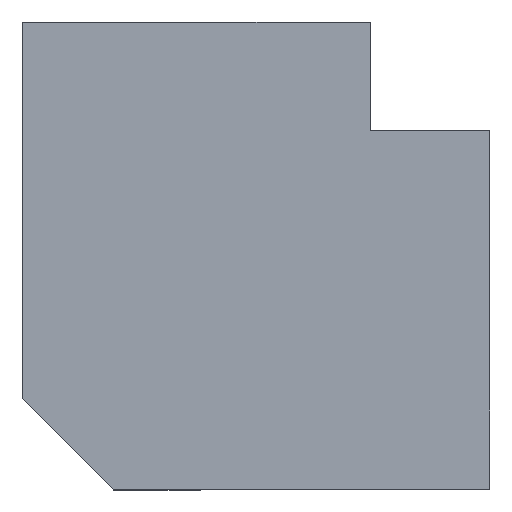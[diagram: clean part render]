
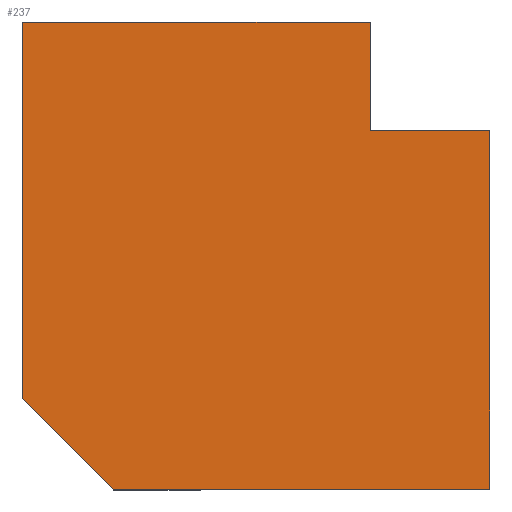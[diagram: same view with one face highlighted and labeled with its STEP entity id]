
A CAD part, top view. The second image highlights one B-rep face of the part: STEP entity #237.
In plain terms, the highlighted planar face has unit normal (0, 0, 1).
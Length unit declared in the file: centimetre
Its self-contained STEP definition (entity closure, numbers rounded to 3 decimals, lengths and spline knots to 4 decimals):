
#9 = AXIS2_PLACEMENT_3D ( 'NONE', #389, #392, #654 ) ;
#11 = DIRECTION ( 'NONE',  ( 0., 1., 0. ) ) ;
#22 = VECTOR ( 'NONE', #11, 100. ) ;
#40 = CARTESIAN_POINT ( 'NONE',  ( 194.8159, 0., 1000. ) ) ;
#50 = EDGE_CURVE ( 'NONE', #299, #243, #265, .T. ) ;
#66 = LINE ( 'NONE', #292, #22 ) ;
#69 = CARTESIAN_POINT ( 'NONE',  ( 0., 1000., 1000. ) ) ;
#100 = LINE ( 'NONE', #490, #293 ) ;
#108 = VECTOR ( 'NONE', #491, 100. ) ;
#130 = ORIENTED_EDGE ( 'NONE', *, *, #297, .F. ) ;
#138 = ORIENTED_EDGE ( 'NONE', *, *, #513, .T. ) ;
#149 = CARTESIAN_POINT ( 'NONE',  ( 744.6288, 768.1041, 1000. ) ) ;
#156 = VECTOR ( 'NONE', #209, 100. ) ;
#157 = VECTOR ( 'NONE', #520, 100. ) ;
#162 = FACE_OUTER_BOUND ( 'NONE', #357, .T. ) ;
#171 = ORIENTED_EDGE ( 'NONE', *, *, #549, .T. ) ;
#195 = CARTESIAN_POINT ( 'NONE',  ( 1000., 0., 1000. ) ) ;
#209 = DIRECTION ( 'NONE',  ( 0., -1., 0. ) ) ;
#222 = LINE ( 'NONE', #447, #672 ) ;
#237 = ADVANCED_FACE ( 'NONE', ( #162 ), #438, .T. ) ;
#243 = VERTEX_POINT ( 'NONE', #384 ) ;
#247 = LINE ( 'NONE', #421, #306 ) ;
#250 = EDGE_CURVE ( 'NONE', #606, #614, #222, .T. ) ;
#255 = EDGE_CURVE ( 'NONE', #243, #606, #100, .T. ) ;
#265 = LINE ( 'NONE', #394, #156 ) ;
#269 = VERTEX_POINT ( 'NONE', #475 ) ;
#284 = VERTEX_POINT ( 'NONE', #360 ) ;
#292 = CARTESIAN_POINT ( 'NONE',  ( 1000., 1000., 1000. ) ) ;
#293 = VECTOR ( 'NONE', #547, 100. ) ;
#296 = VERTEX_POINT ( 'NONE', #149 ) ;
#297 = EDGE_CURVE ( 'NONE', #296, #284, #247, .T. ) ;
#299 = VERTEX_POINT ( 'NONE', #642 ) ;
#306 = VECTOR ( 'NONE', #689, 100. ) ;
#350 = LINE ( 'NONE', #523, #108 ) ;
#357 = EDGE_LOOP ( 'NONE', ( #171, #138, #667, #499, #592, #565, #130 ) ) ;
#360 = CARTESIAN_POINT ( 'NONE',  ( 1000., 768.1041, 1000. ) ) ;
#384 = CARTESIAN_POINT ( 'NONE',  ( 0., 194.8159, 1000. ) ) ;
#389 = CARTESIAN_POINT ( 'NONE',  ( 0., 0., 1000. ) ) ;
#392 = DIRECTION ( 'NONE',  ( 0., 0., 1. ) ) ;
#394 = CARTESIAN_POINT ( 'NONE',  ( 0., 1000., 1000. ) ) ;
#421 = CARTESIAN_POINT ( 'NONE',  ( 1000., 768.1041, 1000. ) ) ;
#438 = PLANE ( 'NONE',  #9 ) ;
#447 = CARTESIAN_POINT ( 'NONE',  ( 0., 0., 1000. ) ) ;
#475 = CARTESIAN_POINT ( 'NONE',  ( 744.6288, 1000., 1000. ) ) ;
#489 = EDGE_CURVE ( 'NONE', #614, #284, #66, .T. ) ;
#490 = CARTESIAN_POINT ( 'NONE',  ( 97.408, 97.408, 1000. ) ) ;
#491 = DIRECTION ( 'NONE',  ( 0., 1., 0. ) ) ;
#499 = ORIENTED_EDGE ( 'NONE', *, *, #255, .T. ) ;
#513 = EDGE_CURVE ( 'NONE', #269, #299, #617, .T. ) ;
#520 = DIRECTION ( 'NONE',  ( -1., 0., 0. ) ) ;
#523 = CARTESIAN_POINT ( 'NONE',  ( 744.6288, 768.1041, 1000. ) ) ;
#547 = DIRECTION ( 'NONE',  ( 0.707, -0.707, 0. ) ) ;
#549 = EDGE_CURVE ( 'NONE', #296, #269, #350, .T. ) ;
#565 = ORIENTED_EDGE ( 'NONE', *, *, #489, .T. ) ;
#592 = ORIENTED_EDGE ( 'NONE', *, *, #250, .T. ) ;
#604 = DIRECTION ( 'NONE',  ( 1., 0., 0. ) ) ;
#606 = VERTEX_POINT ( 'NONE', #40 ) ;
#614 = VERTEX_POINT ( 'NONE', #195 ) ;
#617 = LINE ( 'NONE', #69, #157 ) ;
#642 = CARTESIAN_POINT ( 'NONE',  ( 0., 1000., 1000. ) ) ;
#654 = DIRECTION ( 'NONE',  ( 1., 0., 0. ) ) ;
#667 = ORIENTED_EDGE ( 'NONE', *, *, #50, .T. ) ;
#672 = VECTOR ( 'NONE', #604, 100. ) ;
#689 = DIRECTION ( 'NONE',  ( 1., 0., 0. ) ) ;
